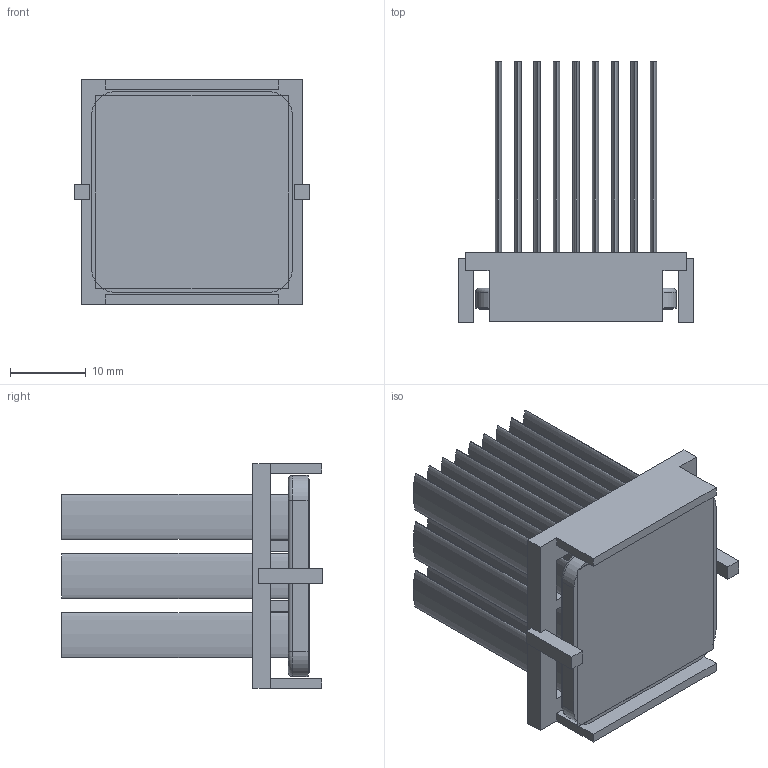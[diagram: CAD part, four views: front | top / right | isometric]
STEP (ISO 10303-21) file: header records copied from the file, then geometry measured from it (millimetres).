
FILE_DESCRIPTION (( 'STEP AP214' ), '1' );
FILE_NAME ('INM27001-33W_2.6+BU.STEP', '2023-02-17T18:35:28', ( '' ), ( '' ), 'SwSTEP 2.0', 'SolidWorks 2020', '' );
FILE_SCHEMA (( 'AUTOMOTIVE_DESIGN' ));
Length unit declared in the file: millimetre
Products named in the file (1): INM27001-33W_2.6+BU
Bounding box: 31.2 x 34.5 x 29.7 mm (x, y, z)
Volume: 6525.6 mm3; surface area: 15092 mm2
Topology: 3 solids, 3 shells, 159 faces, 370 edges, 244 vertices
Faces by surface type: plane 93, bspline 54, cylinder 8, torus 4
Entity records: 6407 total; most frequent: CARTESIAN_POINT 1476, ORIENTED_EDGE 740, DIRECTION 494, EDGE_CURVE 370, VERTEX_POINT 244, LINE 242, VECTOR 242, EDGE_LOOP 188
